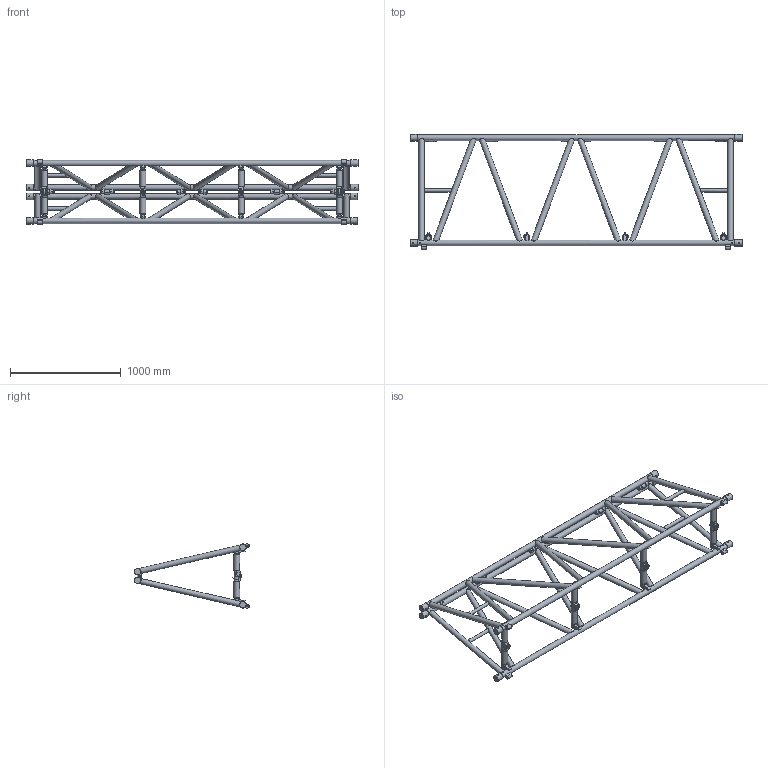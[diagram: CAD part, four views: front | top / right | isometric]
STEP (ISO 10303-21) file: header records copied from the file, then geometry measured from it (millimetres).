
FILE_DESCRIPTION(/* description */ (''),/* implementation_level */ '2;1');
FILE_NAME(/* name */ 'M:\Symbolen_NIEUW\STP\100-er truss\S100F\S100F-L300_111110035.stp',/* time_stamp */ '2017-11-30T15:58:58+01:00',/* author */ ('Kees'),/* organization */ (''),/* preprocessor_version */ 'ST-DEVELOPER v16.13',/* originating_system */ 'Autodesk Inventor 2018',/* authorisation */ '');
FILE_SCHEMA (('AUTOMOTIVE_DESIGN { 1 0 10303 214 3 1 1 }'));
Length unit declared in the file: millimetre
Products named in the file (1): 260009576
Bounding box: 3000 x 1038.68 x 580.51 mm (x, y, z)
Volume: 58405315.5 mm3; surface area: 5046485.9 mm2
Topology: 15 solids, 15 shells, 1178 faces, 3020 edges, 1974 vertices
Faces by surface type: plane 796, cylinder 296, cone 86
Full cylindrical faces by diameter (mm): 10 x8, 12 x28, 12.5 x20, 12.8 x16, 13 x26, 17.4 x12, 24 x10, 30 x4, 48.3 x16, 50 x12, 54 x8, 58.8 x8
Entity records: 38260 total; most frequent: CARTESIAN_POINT 9287, DIRECTION 5734, ORIENTED_EDGE 5472, EDGE_CURVE 2736, AXIS2_PLACEMENT_3D 2143, VERTEX_POINT 1888, EDGE_LOOP 1656, LINE 1448
